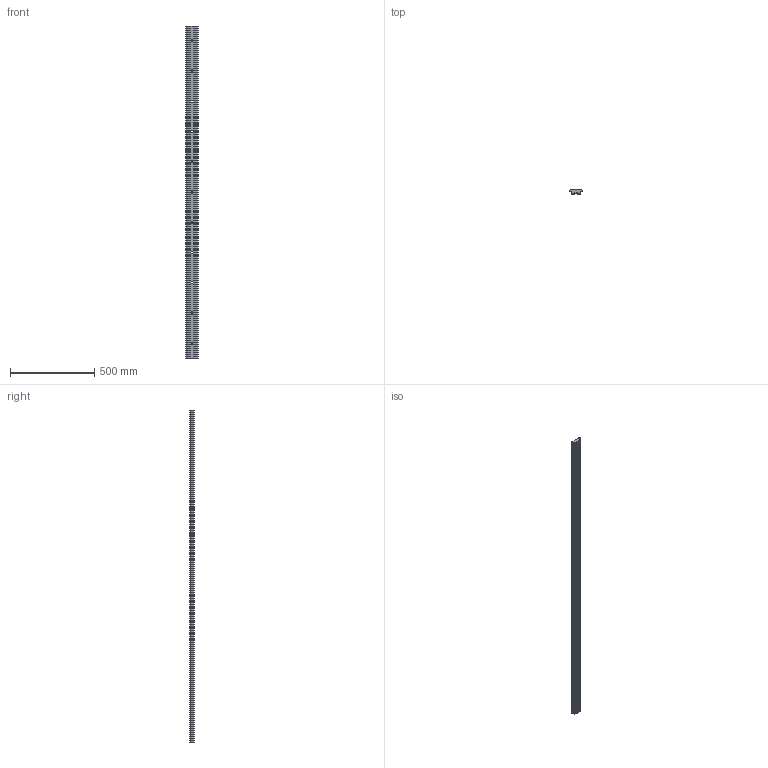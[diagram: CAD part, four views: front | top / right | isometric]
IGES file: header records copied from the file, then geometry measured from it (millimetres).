
Start section: 3D InterOp IGES (v. 2019 1.0.2), Spatial Corp. Copyright (c) 1999-2017.
Global section: file name: NL76 L1976 P2.igs; native system: Spatial Corp.; preprocessor: 3D InterOp GENERIC/IGES 3.0; author: Noname; organization: Noname; date: 20220704.105723; units: millimetre
Bounding box: 75.61 x 24.41 x 1976 mm (x, y, z)
Surface area: 408048.1 mm2 (no closed solid volume)
Topology: 0 solids, 0 shells, 93 faces, 480 edges, 480 vertices
Faces by surface type: revolution 56, extrusion 37
